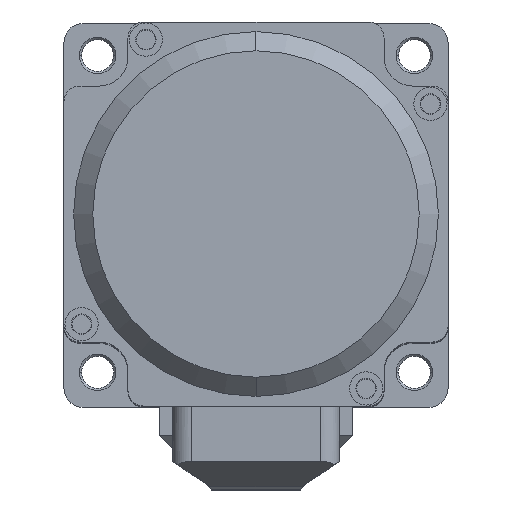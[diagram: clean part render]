
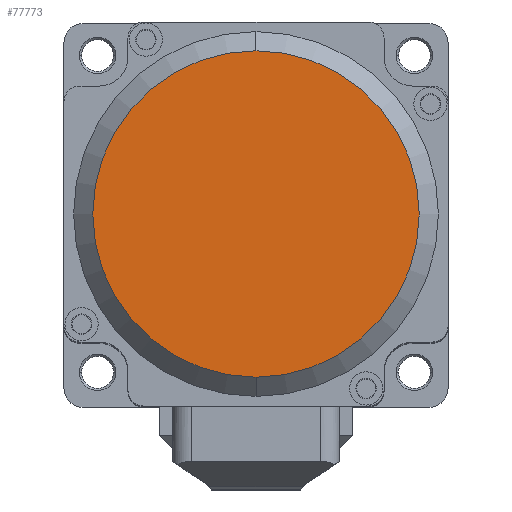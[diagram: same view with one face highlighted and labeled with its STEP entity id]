
A CAD part, top view. The second image highlights one B-rep face of the part: STEP entity #77773.
In plain terms, the highlighted planar face has unit normal (0, 0, 1) as drawn and (0, 1, 0) by its records, which use the part's own axes.
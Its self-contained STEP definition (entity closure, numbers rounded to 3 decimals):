
#423 = CARTESIAN_POINT ( 'NONE',  ( 27.5, 21.8, -17.5 ) ) ;
#3721 = FACE_OUTER_BOUND ( 'NONE', #30557, .T. ) ;
#3882 = CIRCLE ( 'NONE', #22179, 25.5 ) ;
#6533 = DIRECTION ( 'NONE',  ( 0., 0., 1. ) ) ;
#7670 = CARTESIAN_POINT ( 'NONE',  ( 0., 21.8, 0. ) ) ;
#8107 = DIRECTION ( 'NONE',  ( 0., 0., -1. ) ) ;
#9768 = CIRCLE ( 'NONE', #55418, 25.5 ) ;
#10710 = VERTEX_POINT ( 'NONE', #22141 ) ;
#12199 = ORIENTED_EDGE ( 'NONE', *, *, #52396, .T. ) ;
#12817 = EDGE_CURVE ( 'NONE', #10710, #77746, #9768, .T. ) ;
#22141 = CARTESIAN_POINT ( 'NONE',  ( 0., 21.8, 25.5 ) ) ;
#22179 = AXIS2_PLACEMENT_3D ( 'NONE', #7670, #56630, #43387 ) ;
#22233 = ORIENTED_EDGE ( 'NONE', *, *, #12817, .T. ) ;
#30557 = EDGE_LOOP ( 'NONE', ( #12199, #22233 ) ) ;
#38247 = CARTESIAN_POINT ( 'NONE',  ( 0., 21.8, 0. ) ) ;
#42793 = DIRECTION ( 'NONE',  ( 0., 1., 0. ) ) ;
#43387 = DIRECTION ( 'NONE',  ( 0., 0., -1. ) ) ;
#44362 = DIRECTION ( 'NONE',  ( 0., 1., 0. ) ) ;
#52396 = EDGE_CURVE ( 'NONE', #77746, #10710, #3882, .T. ) ;
#55418 = AXIS2_PLACEMENT_3D ( 'NONE', #38247, #44362, #8107 ) ;
#56630 = DIRECTION ( 'NONE',  ( 0., 1., 0. ) ) ;
#60814 = PLANE ( 'NONE',  #76283 ) ;
#76283 = AXIS2_PLACEMENT_3D ( 'NONE', #423, #42793, #6533 ) ;
#77746 = VERTEX_POINT ( 'NONE', #78597 ) ;
#77773 = ADVANCED_FACE ( 'NONE', ( #3721 ), #60814, .T. ) ;
#78597 = CARTESIAN_POINT ( 'NONE',  ( 0., 21.8, -25.5 ) ) ;
